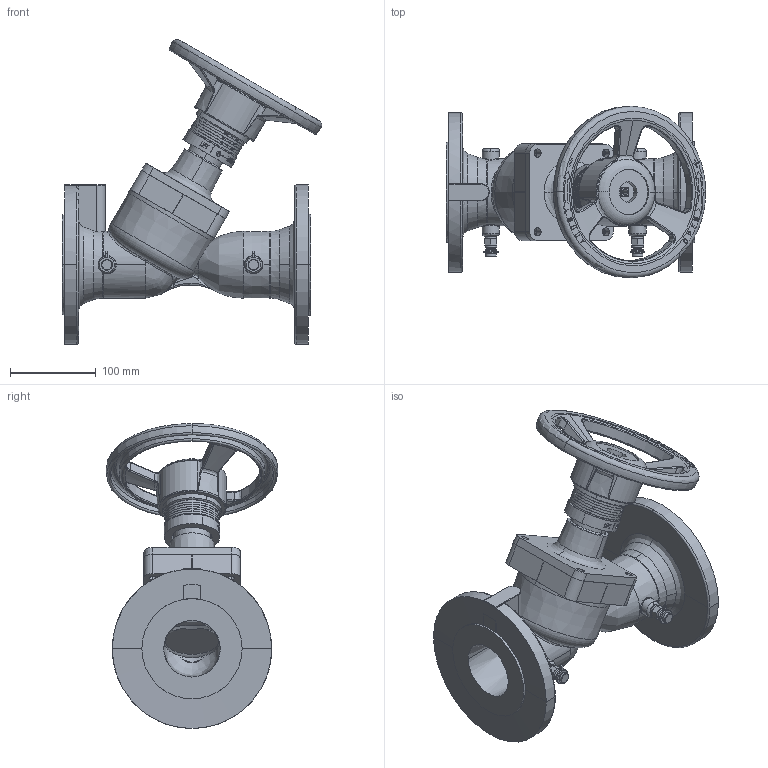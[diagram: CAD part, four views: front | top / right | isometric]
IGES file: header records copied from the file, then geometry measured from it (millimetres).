
Global section: file name: No Iges File Name specified; native system: AutoDesk Inventor R12.0; preprocessor: AutoDesk Inventor Iges Exporter R12.0; date: 20110225.084403; units: millimetre
Bounding box: 302.41 x 200.2 x 355.69 mm (x, y, z)
Volume: 2662999.3 mm3; surface area: 385162.8 mm2
Topology: 1 solids, 1 shells, 954 faces, 2502 edges, 1607 vertices
Faces by surface type: plane 344, bspline 273, cylinder 142, revolution 82, torus 59, cone 54
